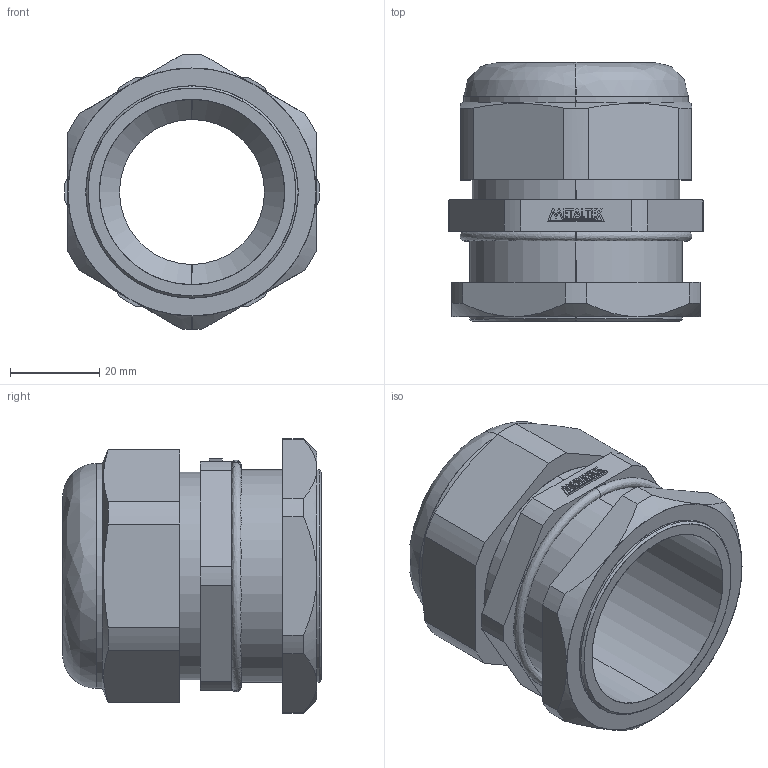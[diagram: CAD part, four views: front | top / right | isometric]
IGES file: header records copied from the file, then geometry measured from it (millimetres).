
Start section: SolidWorks IGES file using analytic representation for surfaces
Global section: file name: D:\X - Arquivos\PROEX\Empresas\P11 - METALTEX\01 - Produtos\IGES\Terceira remessa\Etapa 2\CH-B1-1_2.IGS; native system: SolidWorks 2012; preprocessor: SolidWorks 2012; author: Usuario; date: 180207.125044; units: millimetre
Bounding box: 57.08 x 58 x 61.59 mm (x, y, z)
Surface area: 21776.9 mm2 (no closed solid volume)
Topology: 0 solids, 0 shells, 174 faces, 1628 edges, 1628 vertices
Faces by surface type: bspline 125, revolution 49
